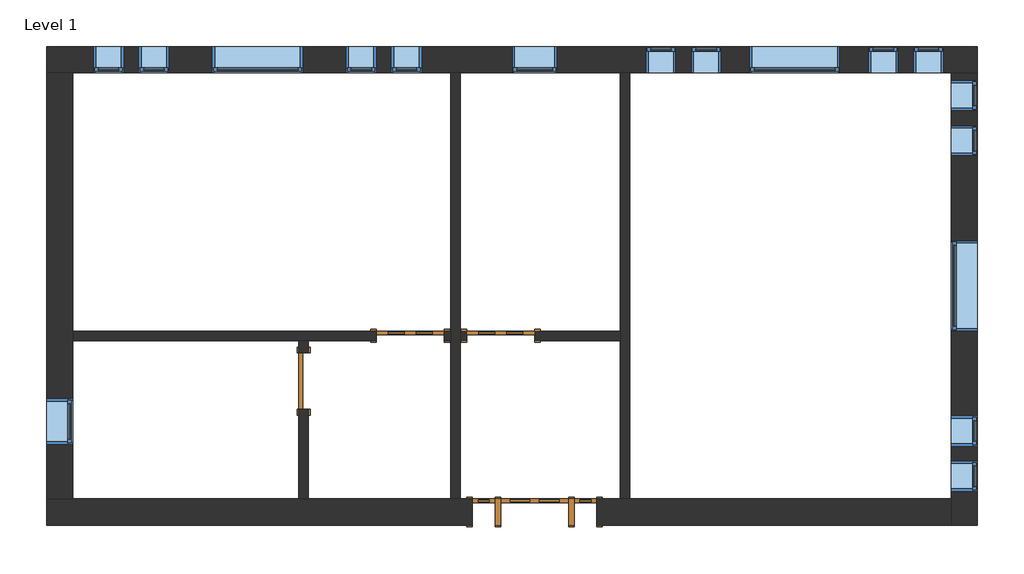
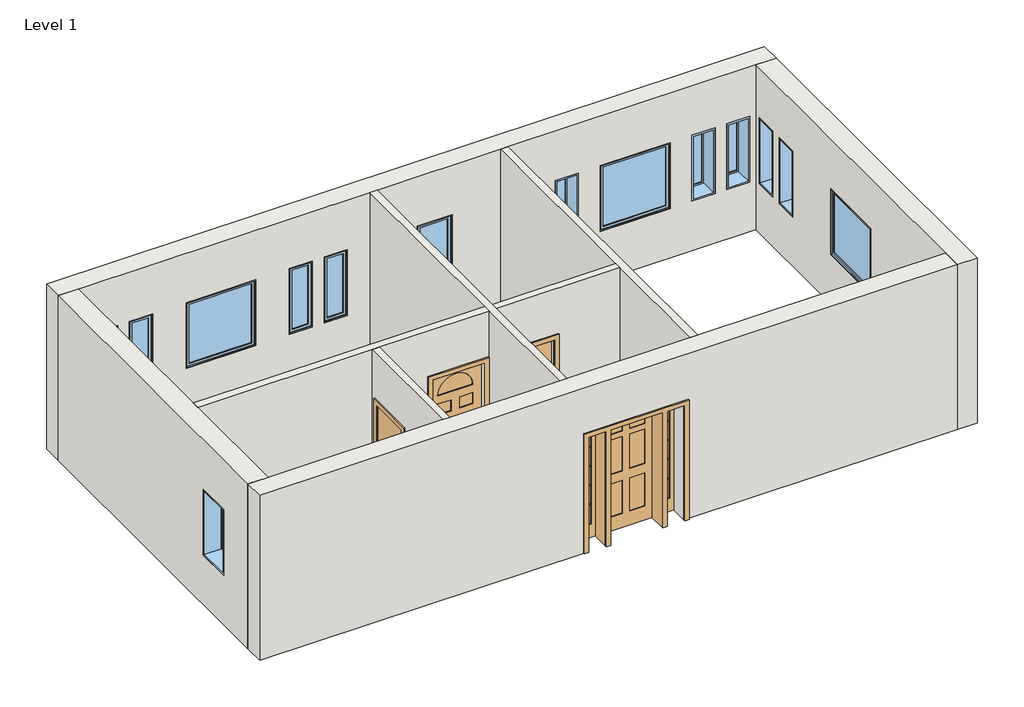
# One storey: 17 windows, 9 walls, 4 doors.
"""IFC4 building model written with IfcOpenShell, lengths in millimetres."""

from ifc_helpers import new_model, si_unit, frame, origin, place, context, project, spatial, polyline, outline, extrude, faceted_brep, transform, mapped, element, save
from components import door_829da954, door_2e3b4da2, door_4d6c7550, door_dba5aa2e, window_da97879f, window_d61ef850, window_60baf983, window_6eb97611

model = new_model("IFC4")

# Units and contexts
model_context = context("Model", 3, world=origin())
ifc_project = project(units=[si_unit("LENGTHUNIT", "METRE", prefix="MILLI")], contexts=[model_context])

# Site, building, storey
site = spatial("IfcSite", under=ifc_project)
building = spatial("IfcBuilding", under=site)
storey = spatial("IfcBuildingStorey", under=building, Name="Level 1", Elevation=0.0)

# Doors
placement = place(None, origin())
door_shape = door_829da954(model_context)
element("IfcDoor", 1, ObjectType="Single-Decorative 2 : 36\" x 84\"", at=placement, inside=storey, context=model_context, shape_type="MappedRepresentation", body=[
    mapped(door_shape, transform((-5449.8589563, 6723.5441867, 0.0), x_axis=(-1.0, 0.0, 0.0), y_axis=(0.0, -1.0, 0.0), z_axis=(0.0, 0.0, 1.0))),
])
door_2_shape = door_2e3b4da2(model_context)
element("IfcDoor", 2, ObjectType="Single-Decorative 2 : 36\" x 84\"", at=placement, inside=storey, context=model_context, shape_type="MappedRepresentation", body=[
    mapped(door_2_shape, transform((-6669.0589563, 6723.5441867, 0.0), x_axis=(1.0, 0.0, 0.0), y_axis=(0.0, 1.0, 0.0), z_axis=(0.0, 0.0, 1.0))),
])
door_3_shape = door_4d6c7550(model_context)
element("IfcDoor", 3, ObjectType="Single-Flush : 30\" x 84\"", at=placement, inside=storey, context=model_context, shape_type="MappedRepresentation", body=[
    mapped(door_3_shape, transform((-8105.7464563, 6113.9441867, 0.0), x_axis=(0.0, 1.0, 0.0), y_axis=(-1.0, 0.0, 0.0), z_axis=(0.0, 0.0, 1.0))),
])
door_4_shape = door_dba5aa2e(model_context)
element("IfcDoor", 4, ObjectType="Single-Raised Panel with Sidelights : 36\" x 84\"", at=placement, inside=storey, context=model_context, shape_type="MappedRepresentation", body=[
    mapped(door_4_shape, transform((-4992.6589563, 4350.2316867, 0.0), x_axis=(-1.0, 0.0, 0.0), y_axis=(0.0, -1.0, 0.0), z_axis=(0.0, 0.0, 1.0))),
])

# Walls
element("IfcWall", 5, ObjectType="Exterior - Brick on Mtl. Stud", at=placement, inside=storey, context=model_context, shape_type="Brep", body=[
    faceted_brep([(-11569.6714563, 10270.0191867, 0.0), (-11217.2464563, 10270.0191867, 0.0), (-6122.9589563, 10270.0191867, 0.0), (-5995.9589563, 10270.0191867, 0.0), (-3836.9589563, 10270.0191867, 0.0), (-3709.9589563, 10270.0191867, 0.0), (622.3285437, 10270.0191867, 0.0), (974.7535437, 10270.0191867, 0.0), (974.7535437, 10270.0191867, 3048.0), (622.3285437, 10270.0191867, 3048.0), (-3709.9589563, 10270.0191867, 3048.0), (-3836.9589563, 10270.0191867, 3048.0), (-5995.9589563, 10270.0191867, 3048.0), (-6122.9589563, 10270.0191867, 3048.0), (-11217.2464563, 10270.0191867, 3048.0), (-11569.6714563, 10270.0191867, 3048.0), (112.7410437, 10270.0191867, 2133.6), (519.1410437, 10270.0191867, 2133.6), (519.1410437, 10270.0191867, 914.4), (112.7410437, 10270.0191867, 914.4), (-496.8589563, 10270.0191867, 2133.6), (-90.4589563, 10270.0191867, 2133.6), (-90.4589563, 10270.0191867, 914.4), (-496.8589563, 10270.0191867, 914.4), (-3087.6589563, 10270.0191867, 2133.6), (-3087.6589563, 10270.0191867, 914.4), (-3494.0589563, 10270.0191867, 914.4), (-3494.0589563, 10270.0191867, 2133.6), (-2478.0589563, 10270.0191867, 2133.6), (-2478.0589563, 10270.0191867, 914.4), (-2884.4589563, 10270.0191867, 914.4), (-2884.4589563, 10270.0191867, 2133.6), (-7126.2589563, 10270.0191867, 2133.6), (-7126.2589563, 10270.0191867, 914.4), (-7532.6589563, 10270.0191867, 914.4), (-7532.6589563, 10270.0191867, 2133.6), (-6516.6589563, 10270.0191867, 2133.6), (-6516.6589563, 10270.0191867, 914.4), (-6923.0589563, 10270.0191867, 914.4), (-6923.0589563, 10270.0191867, 2133.6), (-10326.6589563, 10270.0191867, 2133.6), (-9920.2589563, 10270.0191867, 2133.6), (-9920.2589563, 10270.0191867, 914.4), (-10326.6589563, 10270.0191867, 914.4), (-10936.2589563, 10270.0191867, 2133.6), (-10529.8589563, 10270.0191867, 2133.6), (-10529.8589563, 10270.0191867, 914.4), (-10936.2589563, 10270.0191867, 914.4), (-2097.0589563, 10270.0191867, 2133.6), (-877.8589563, 10270.0191867, 2133.6), (-877.8589563, 10270.0191867, 914.4), (-2097.0589563, 10270.0191867, 914.4), (-9336.0589563, 10270.0191867, 2133.6), (-8116.8589563, 10270.0191867, 2133.6), (-8116.8589563, 10270.0191867, 914.4), (-9336.0589563, 10270.0191867, 914.4), (-5297.4589563, 10270.0191867, 2133.6), (-4687.8589563, 10270.0191867, 2133.6), (-4687.8589563, 10270.0191867, 914.4), (-5297.4589563, 10270.0191867, 914.4), (-11569.6714563, 10622.4441867, 0.0), (-11569.6714563, 10622.4441867, 3048.0), (974.7535437, 10622.4441867, 3048.0), (974.7535437, 10622.4441867, 0.0), (112.7410437, 10622.4441867, 2133.6), (112.7410437, 10622.4441867, 914.4), (519.1410437, 10622.4441867, 914.4), (519.1410437, 10622.4441867, 2133.6), (-496.8589563, 10622.4441867, 2133.6), (-496.8589563, 10622.4441867, 914.4), (-90.4589563, 10622.4441867, 914.4), (-90.4589563, 10622.4441867, 2133.6), (-3087.6589563, 10622.4441867, 2133.6), (-3494.0589563, 10622.4441867, 2133.6), (-3494.0589563, 10622.4441867, 914.4), (-3087.6589563, 10622.4441867, 914.4), (-2478.0589563, 10622.4441867, 2133.6), (-2884.4589563, 10622.4441867, 2133.6), (-2884.4589563, 10622.4441867, 914.4), (-2478.0589563, 10622.4441867, 914.4), (-7126.2589563, 10622.4441867, 2133.6), (-7532.6589563, 10622.4441867, 2133.6), (-7532.6589563, 10622.4441867, 914.4), (-7126.2589563, 10622.4441867, 914.4), (-6516.6589563, 10622.4441867, 2133.6), (-6923.0589563, 10622.4441867, 2133.6), (-6923.0589563, 10622.4441867, 914.4), (-6516.6589563, 10622.4441867, 914.4), (-10326.6589563, 10622.4441867, 2133.6), (-10326.6589563, 10622.4441867, 914.4), (-9920.2589563, 10622.4441867, 914.4), (-9920.2589563, 10622.4441867, 2133.6), (-10936.2589563, 10622.4441867, 2133.6), (-10936.2589563, 10622.4441867, 914.4), (-10529.8589563, 10622.4441867, 914.4), (-10529.8589563, 10622.4441867, 2133.6), (-2097.0589563, 10622.4441867, 2133.6), (-2097.0589563, 10622.4441867, 914.4), (-877.8589563, 10622.4441867, 914.4), (-877.8589563, 10622.4441867, 2133.6), (-9336.0589563, 10622.4441867, 2133.6), (-9336.0589563, 10622.4441867, 914.4), (-8116.8589563, 10622.4441867, 914.4), (-8116.8589563, 10622.4441867, 2133.6), (-5297.4589563, 10622.4441867, 2133.6), (-5297.4589563, 10622.4441867, 914.4), (-4687.8589563, 10622.4441867, 914.4), (-4687.8589563, 10622.4441867, 2133.6)], [[[0, 1, 2, 3, 4, 5, 6, 7, 8, 9, 10, 11, 12, 13, 14, 15], [16, 17, 18, 19], [20, 21, 22, 23], [24, 25, 26, 27], [28, 29, 30, 31], [32, 33, 34, 35], [36, 37, 38, 39], [40, 41, 42, 43], [44, 45, 46, 47], [48, 49, 50, 51], [52, 53, 54, 55], [56, 57, 58, 59]], [[60, 61, 62, 63], [64, 65, 66, 67], [68, 69, 70, 71], [72, 73, 74, 75], [76, 77, 78, 79], [80, 81, 82, 83], [84, 85, 86, 87], [88, 89, 90, 91], [92, 93, 94, 95], [96, 97, 98, 99], [100, 101, 102, 103], [104, 105, 106, 107]], [[7, 6, 5, 4, 3, 2, 1, 0, 60, 63]], [[15, 14, 13, 12, 11, 10, 9, 8, 62, 61]], [[8, 7, 63, 62]], [[0, 15, 61, 60]], [[65, 64, 16, 19]], [[66, 65, 19, 18]], [[67, 66, 18, 17]], [[64, 67, 17, 16]], [[69, 68, 20, 23]], [[70, 69, 23, 22]], [[71, 70, 22, 21]], [[68, 71, 21, 20]], [[25, 24, 72, 75]], [[26, 25, 75, 74]], [[27, 26, 74, 73]], [[24, 27, 73, 72]], [[29, 28, 76, 79]], [[30, 29, 79, 78]], [[31, 30, 78, 77]], [[28, 31, 77, 76]], [[33, 32, 80, 83]], [[34, 33, 83, 82]], [[35, 34, 82, 81]], [[32, 35, 81, 80]], [[37, 36, 84, 87]], [[38, 37, 87, 86]], [[39, 38, 86, 85]], [[36, 39, 85, 84]], [[89, 88, 40, 43]], [[90, 89, 43, 42]], [[91, 90, 42, 41]], [[88, 91, 41, 40]], [[93, 92, 44, 47]], [[94, 93, 47, 46]], [[95, 94, 46, 45]], [[92, 95, 45, 44]], [[97, 96, 48, 51]], [[98, 97, 51, 50]], [[99, 98, 50, 49]], [[96, 99, 49, 48]], [[101, 100, 52, 55]], [[102, 101, 55, 54]], [[103, 102, 54, 53]], [[100, 103, 53, 52]], [[105, 104, 56, 59]], [[106, 105, 59, 58]], [[107, 106, 58, 57]], [[104, 107, 57, 56]]]),
])
element("IfcWall", 6, ObjectType="Exterior - Brick on Mtl. Stud", at=placement, inside=storey, context=model_context, shape_type="Brep", body=[
    faceted_brep([(622.3285437, 10270.0191867, 0.0), (622.3285437, 4526.4441867, 0.0), (622.3285437, 4174.0191867, 0.0), (622.3285437, 4174.0191867, 3048.0), (622.3285437, 4526.4441867, 3048.0), (622.3285437, 10270.0191867, 3048.0), (622.3285437, 5036.0316867, 2133.6), (622.3285437, 4629.6316867, 2133.6), (622.3285437, 4629.6316867, 914.4), (622.3285437, 5036.0316867, 914.4), (622.3285437, 5645.6316867, 2133.6), (622.3285437, 5239.2316867, 2133.6), (622.3285437, 5239.2316867, 914.4), (622.3285437, 5645.6316867, 914.4), (622.3285437, 9760.4316867, 2133.6), (622.3285437, 9760.4316867, 914.4), (622.3285437, 10166.8316867, 914.4), (622.3285437, 10166.8316867, 2133.6), (622.3285437, 9150.8316867, 2133.6), (622.3285437, 9150.8316867, 914.4), (622.3285437, 9557.2316867, 914.4), (622.3285437, 9557.2316867, 2133.6), (622.3285437, 8007.8316867, 2133.6), (622.3285437, 6788.6316867, 2133.6), (622.3285437, 6788.6316867, 914.4), (622.3285437, 8007.8316867, 914.4), (974.7535437, 10270.0191867, 0.0), (974.7535437, 10270.0191867, 3048.0), (974.7535437, 4174.0191867, 3048.0), (974.7535437, 4174.0191867, 0.0), (974.7535437, 5036.0316867, 2133.6), (974.7535437, 5036.0316867, 914.4), (974.7535437, 4629.6316867, 914.4), (974.7535437, 4629.6316867, 2133.6), (974.7535437, 5645.6316867, 2133.6), (974.7535437, 5645.6316867, 914.4), (974.7535437, 5239.2316867, 914.4), (974.7535437, 5239.2316867, 2133.6), (974.7535437, 9760.4316867, 2133.6), (974.7535437, 10166.8316867, 2133.6), (974.7535437, 10166.8316867, 914.4), (974.7535437, 9760.4316867, 914.4), (974.7535437, 9150.8316867, 2133.6), (974.7535437, 9557.2316867, 2133.6), (974.7535437, 9557.2316867, 914.4), (974.7535437, 9150.8316867, 914.4), (974.7535437, 8007.8316867, 2133.6), (974.7535437, 8007.8316867, 914.4), (974.7535437, 6788.6316867, 914.4), (974.7535437, 6788.6316867, 2133.6)], [[[0, 1, 2, 3, 4, 5], [6, 7, 8, 9], [10, 11, 12, 13], [14, 15, 16, 17], [18, 19, 20, 21], [22, 23, 24, 25]], [[26, 27, 28, 29], [30, 31, 32, 33], [34, 35, 36, 37], [38, 39, 40, 41], [42, 43, 44, 45], [46, 47, 48, 49]], [[2, 1, 0, 26, 29]], [[5, 4, 3, 28, 27]], [[3, 2, 29, 28]], [[0, 5, 27, 26]], [[31, 30, 6, 9]], [[32, 31, 9, 8]], [[33, 32, 8, 7]], [[30, 33, 7, 6]], [[35, 34, 10, 13]], [[36, 35, 13, 12]], [[37, 36, 12, 11]], [[34, 37, 11, 10]], [[15, 14, 38, 41]], [[16, 15, 41, 40]], [[17, 16, 40, 39]], [[14, 17, 39, 38]], [[19, 18, 42, 45]], [[20, 19, 45, 44]], [[21, 20, 44, 43]], [[18, 21, 43, 42]], [[47, 46, 22, 25]], [[48, 47, 25, 24]], [[49, 48, 24, 23]], [[46, 49, 23, 22]]]),
])
element("IfcWall", 7, ObjectType="Exterior - Brick on Mtl. Stud", at=placement, inside=storey, context=model_context, shape_type="Brep", body=[
    faceted_brep([(-5830.8589563, 4526.4441867, 2133.6), (-5830.8589563, 4526.4441867, 0.0), (-5995.9589563, 4526.4441867, 0.0), (-6122.9589563, 4526.4441867, 0.0), (-8042.2464563, 4526.4441867, 0.0), (-8169.2464563, 4526.4441867, 0.0), (-11217.2464563, 4526.4441867, 0.0), (-11569.6714563, 4526.4441867, 0.0), (-11569.6714563, 4526.4441867, 3048.0), (-11217.2464563, 4526.4441867, 3048.0), (-8169.2464563, 4526.4441867, 3048.0), (-8042.2464563, 4526.4441867, 3048.0), (-6122.9589563, 4526.4441867, 3048.0), (-5995.9589563, 4526.4441867, 3048.0), (-3836.9589563, 4526.4441867, 3048.0), (-3709.9589563, 4526.4441867, 3048.0), (622.3285437, 4526.4441867, 3048.0), (622.3285437, 4526.4441867, 0.0), (-3709.9589563, 4526.4441867, 0.0), (-3836.9589563, 4526.4441867, 0.0), (-4154.4589563, 4526.4441867, 0.0), (-4154.4589563, 4526.4441867, 2133.6), (-11569.6714563, 4174.0191867, 0.0), (-5830.8589563, 4174.0191867, 0.0), (-5830.8589563, 4174.0191867, 2133.6), (-4154.4589563, 4174.0191867, 2133.6), (-4154.4589563, 4174.0191867, 0.0), (622.3285437, 4174.0191867, 0.0), (622.3285437, 4174.0191867, 3048.0), (-11569.6714563, 4174.0191867, 3048.0)], [[[0, 1, 2, 3, 4, 5, 6, 7, 8, 9, 10, 11, 12, 13, 14, 15, 16, 17, 18, 19, 20, 21]], [[22, 23, 24, 25, 26, 27, 28, 29]], [[7, 6, 5, 4, 3, 2, 1, 23, 22]], [[20, 19, 18, 17, 27, 26]], [[16, 15, 14, 13, 12, 11, 10, 9, 8, 29, 28]], [[8, 7, 22, 29]], [[17, 16, 28, 27]], [[24, 23, 1, 0]], [[25, 24, 0, 21]], [[26, 25, 21, 20]]]),
])
element("IfcWall", 8, ObjectType="Exterior - Brick on Mtl. Stud", at=placement, inside=storey, context=model_context, shape_type="Brep", body=[
    faceted_brep([(-11217.2464563, 10270.0191867, 0.0), (-11217.2464563, 6787.0441867, 0.0), (-11217.2464563, 6660.0441867, 0.0), (-11217.2464563, 4526.4441867, 0.0), (-11569.6714563, 4526.4441867, 0.0), (-11569.6714563, 10270.0191867, 0.0), (-11217.2464563, 4526.4441867, 3048.0), (-11217.2464563, 6660.0441867, 3048.0), (-11217.2464563, 6787.0441867, 3048.0), (-11217.2464563, 10270.0191867, 3048.0), (-11569.6714563, 10270.0191867, 3048.0), (-11569.6714563, 4526.4441867, 3048.0), (-11217.2464563, 5264.6316867, 2133.6), (-11217.2464563, 5874.2316867, 2133.6), (-11217.2464563, 5874.2316867, 914.4), (-11217.2464563, 5264.6316867, 914.4), (-11569.6714563, 5264.6316867, 2133.6), (-11569.6714563, 5264.6316867, 914.4), (-11569.6714563, 5874.2316867, 914.4), (-11569.6714563, 5874.2316867, 2133.6)], [[[0, 1, 2, 3, 4, 5]], [[6, 7, 8, 9, 10, 11]], [[3, 2, 1, 0, 9, 8, 7, 6], [12, 13, 14, 15]], [[4, 11, 10, 5], [16, 17, 18, 19]], [[3, 6, 11, 4]], [[9, 0, 5, 10]], [[17, 16, 12, 15]], [[18, 17, 15, 14]], [[19, 18, 14, 13]], [[16, 19, 13, 12]]]),
])
element("IfcWall", 9, ObjectType="Interior - 5\" Partition (2-hr)", at=placement, inside=storey, context=model_context, shape_type="Brep", body=[
    faceted_brep([(-3836.9589563, 10270.0191867, 0.0), (-3836.9589563, 6787.0441867, 0.0), (-3836.9589563, 6660.0441867, 0.0), (-3836.9589563, 4526.4441867, 0.0), (-3836.9589563, 4526.4441867, 3048.0), (-3836.9589563, 6660.0441867, 3048.0), (-3836.9589563, 6787.0441867, 3048.0), (-3836.9589563, 10270.0191867, 3048.0), (-3709.9589563, 10270.0191867, 0.0), (-3709.9589563, 10270.0191867, 3048.0), (-3709.9589563, 4526.4441867, 3048.0), (-3709.9589563, 4526.4441867, 0.0)], [[[0, 1, 2, 3, 4, 5, 6, 7]], [[8, 9, 10, 11]], [[3, 2, 1, 0, 8, 11]], [[7, 6, 5, 4, 10, 9]], [[0, 7, 9, 8]], [[4, 3, 11, 10]]]),
])
element("IfcWall", 10, ObjectType="Interior - 5\" Partition (2-hr)", at=placement, inside=storey, context=model_context, shape_type="Brep", body=[
    faceted_brep([(-6122.9589563, 10270.0191867, 0.0), (-6122.9589563, 6787.0441867, 0.0), (-6122.9589563, 6660.0441867, 0.0), (-6122.9589563, 4526.4441867, 0.0), (-6122.9589563, 4526.4441867, 3048.0), (-6122.9589563, 6660.0441867, 3048.0), (-6122.9589563, 6787.0441867, 3048.0), (-6122.9589563, 10270.0191867, 3048.0), (-5995.9589563, 10270.0191867, 0.0), (-5995.9589563, 10270.0191867, 3048.0), (-5995.9589563, 6787.0441867, 3048.0), (-5995.9589563, 6660.0441867, 3048.0), (-5995.9589563, 4526.4441867, 3048.0), (-5995.9589563, 4526.4441867, 0.0), (-5995.9589563, 6660.0441867, 0.0), (-5995.9589563, 6787.0441867, 0.0)], [[[0, 1, 2, 3, 4, 5, 6, 7]], [[8, 9, 10, 11, 12, 13, 14, 15]], [[3, 2, 1, 0, 8, 15, 14, 13]], [[7, 6, 5, 4, 12, 11, 10, 9]], [[0, 7, 9, 8]], [[4, 3, 13, 12]]]),
])
element("IfcWall", 11, ObjectType="Interior - 5\" Partition (2-hr)", at=placement, inside=storey, context=model_context, shape_type="Brep", body=[
    faceted_brep([(-6211.8589563, 6660.0441867, 2133.6), (-6211.8589563, 6660.0441867, 0.0), (-6122.9589563, 6660.0441867, 0.0), (-6122.9589563, 6660.0441867, 3048.0), (-8042.2464563, 6660.0441867, 3048.0), (-8169.2464563, 6660.0441867, 3048.0), (-11217.2464563, 6660.0441867, 3048.0), (-11217.2464563, 6660.0441867, 0.0), (-8169.2464563, 6660.0441867, 0.0), (-8042.2464563, 6660.0441867, 0.0), (-7126.2589563, 6660.0441867, 0.0), (-7126.2589563, 6660.0441867, 2133.6), (-6122.9589563, 6787.0441867, 0.0), (-6211.8589563, 6787.0441867, 0.0), (-6211.8589563, 6787.0441867, 2133.6), (-7126.2589563, 6787.0441867, 2133.6), (-7126.2589563, 6787.0441867, 0.0), (-11217.2464563, 6787.0441867, 0.0), (-11217.2464563, 6787.0441867, 3048.0), (-6122.9589563, 6787.0441867, 3048.0)], [[[0, 1, 2, 3, 4, 5, 6, 7, 8, 9, 10, 11]], [[12, 13, 14, 15, 16, 17, 18, 19]], [[2, 1, 13, 12]], [[10, 9, 8, 7, 17, 16]], [[6, 5, 4, 3, 19, 18]], [[7, 6, 18, 17]], [[3, 2, 12, 19]], [[14, 13, 1, 0]], [[15, 14, 0, 11]], [[16, 15, 11, 10]]]),
])
element("IfcWall", 12, ObjectType="Interior - 5\" Partition (2-hr)", at=placement, inside=storey, context=model_context, shape_type="SweptSolid", body=[
    extrude(outline(polyline([(6660.0441867, 0.0), (6494.9441867, 0.0), (6494.9441867, 2133.6), (5732.9441867, 2133.6), (5732.9441867, 0.0), (4526.4441867, 0.0), (4526.4441867, 3048.0), (6660.0441867, 3048.0), (6660.0441867, 0.0)])), frame((-8169.2464563, 0.0, 0.0), z_axis=(1.0, 0.0, 0.0), x_axis=(0.0, 1.0, 0.0)), (0.0, 0.0, 1.0), 127.0),
])
element("IfcWall", 13, ObjectType="Interior - 5\" Partition (2-hr)", at=placement, inside=storey, context=model_context, shape_type="SweptSolid", body=[
    extrude(outline(polyline([(0.0, -5995.9589563), (0.0, -5907.0589563), (2133.6, -5907.0589563), (2133.6, -4992.6589563), (0.0, -4992.6589563), (0.0, -3836.9589563), (3048.0, -3836.9589563), (3048.0, -5995.9589563), (0.0, -5995.9589563)])), frame((0.0, 6660.0441867, 0.0), z_axis=(0.0, 1.0, 0.0), x_axis=(0.0, 0.0, 1.0)), (0.0, 0.0, 1.0), 127.0),
])

# Windows
window_shape = window_da97879f(model_context)
element("IfcWindow", 14, ObjectType="Fixed : 16\" x 48\"", at=placement, inside=storey, context=model_context, shape_type="MappedRepresentation", body=[
    mapped(window_shape, transform((-10771.1589563, 10446.2316867, 0.0), x_axis=(-1.0, 0.0, 0.0), y_axis=(0.0, -1.0, 0.0), z_axis=(0.0, 0.0, 1.0))),
])
element("IfcWindow", 15, ObjectType="Fixed : 16\" x 48\"", at=placement, inside=storey, context=model_context, shape_type="MappedRepresentation", body=[
    mapped(window_shape, transform((-10161.5589563, 10446.2316867, 0.0), x_axis=(-1.0, 0.0, 0.0), y_axis=(0.0, -1.0, 0.0), z_axis=(0.0, 0.0, 1.0))),
])
element("IfcWindow", 16, ObjectType="Fixed : 16\" x 48\"", at=placement, inside=storey, context=model_context, shape_type="MappedRepresentation", body=[
    mapped(window_shape, transform((-2643.1589563, 10446.2316867, 0.0), x_axis=(1.0, 0.0, 0.0), y_axis=(0.0, 1.0, 0.0), z_axis=(0.0, 0.0, 1.0))),
])
element("IfcWindow", 17, ObjectType="Fixed : 16\" x 48\"", at=placement, inside=storey, context=model_context, shape_type="MappedRepresentation", body=[
    mapped(window_shape, transform((-3252.7589563, 10446.2316867, 0.0), x_axis=(1.0, 0.0, 0.0), y_axis=(0.0, 1.0, 0.0), z_axis=(0.0, 0.0, 1.0))),
])
element("IfcWindow", 18, ObjectType="Fixed : 16\" x 48\"", at=placement, inside=storey, context=model_context, shape_type="MappedRepresentation", body=[
    mapped(window_shape, transform((798.5410437, 9315.9316867, 0.0), x_axis=(0.0, -1.0, 0.0), y_axis=(1.0, 0.0, 0.0), z_axis=(0.0, 0.0, 1.0))),
])
element("IfcWindow", 19, ObjectType="Fixed : 16\" x 48\"", at=placement, inside=storey, context=model_context, shape_type="MappedRepresentation", body=[
    mapped(window_shape, transform((798.5410437, 9925.5316867, 0.0), x_axis=(0.0, -1.0, 0.0), y_axis=(1.0, 0.0, 0.0), z_axis=(0.0, 0.0, 1.0))),
])
window_2_shape = window_d61ef850(model_context)
element("IfcWindow", 20, ObjectType="Fixed : 16\" x 48\"", at=placement, inside=storey, context=model_context, shape_type="MappedRepresentation", body=[
    mapped(window_2_shape, transform((-6681.7589563, 10446.2316867, 0.0), x_axis=(1.0, 0.0, 0.0), y_axis=(0.0, 1.0, 0.0), z_axis=(0.0, 0.0, 1.0))),
])
element("IfcWindow", 21, ObjectType="Fixed : 16\" x 48\"", at=placement, inside=storey, context=model_context, shape_type="MappedRepresentation", body=[
    mapped(window_2_shape, transform((-7291.3589563, 10446.2316867, 0.0), x_axis=(1.0, 0.0, 0.0), y_axis=(0.0, 1.0, 0.0), z_axis=(0.0, 0.0, 1.0))),
])
element("IfcWindow", 22, ObjectType="Fixed : 16\" x 48\"", at=placement, inside=storey, context=model_context, shape_type="MappedRepresentation", body=[
    mapped(window_2_shape, transform((-331.7589563, 10446.2316867, 0.0), x_axis=(-1.0, 0.0, 0.0), y_axis=(0.0, -1.0, 0.0), z_axis=(0.0, 0.0, 1.0))),
])
element("IfcWindow", 23, ObjectType="Fixed : 16\" x 48\"", at=placement, inside=storey, context=model_context, shape_type="MappedRepresentation", body=[
    mapped(window_2_shape, transform((277.8410437, 10446.2316867, 0.0), x_axis=(-1.0, 0.0, 0.0), y_axis=(0.0, -1.0, 0.0), z_axis=(0.0, 0.0, 1.0))),
])
element("IfcWindow", 24, ObjectType="Fixed : 16\" x 48\"", at=placement, inside=storey, context=model_context, shape_type="MappedRepresentation", body=[
    mapped(window_2_shape, transform((798.5410437, 5480.5316867, 0.0), x_axis=(0.0, 1.0, 0.0), y_axis=(-1.0, 0.0, 0.0), z_axis=(0.0, 0.0, 1.0))),
])
element("IfcWindow", 25, ObjectType="Fixed : 16\" x 48\"", at=placement, inside=storey, context=model_context, shape_type="MappedRepresentation", body=[
    mapped(window_2_shape, transform((798.5410437, 4870.9316867, 0.0), x_axis=(0.0, 1.0, 0.0), y_axis=(-1.0, 0.0, 0.0), z_axis=(0.0, 0.0, 1.0))),
])
window_3_shape = window_60baf983(model_context)
element("IfcWindow", 26, ObjectType="Fixed : 24\" x 48\"", at=placement, inside=storey, context=model_context, shape_type="MappedRepresentation", body=[
    mapped(window_3_shape, transform((-5030.7589563, 10446.2316867, 0.0), x_axis=(-1.0, 0.0, 0.0), y_axis=(0.0, -1.0, 0.0), z_axis=(0.0, 0.0, 1.0))),
])
element("IfcWindow", 27, ObjectType="Fixed : 24\" x 48\"", at=placement, inside=storey, context=model_context, shape_type="MappedRepresentation", body=[
    mapped(window_3_shape, transform((-11393.4589563, 5531.3316867, 0.0), x_axis=(0.0, -1.0, 0.0), y_axis=(1.0, 0.0, 0.0), z_axis=(0.0, 0.0, 1.0))),
])
window_4_shape = window_6eb97611(model_context)
element("IfcWindow", 28, ObjectType="Fixed : 48\" x 48\"", at=placement, inside=storey, context=model_context, shape_type="MappedRepresentation", body=[
    mapped(window_4_shape, transform((-8764.5589563, 10446.2316867, 0.0), x_axis=(-1.0, 0.0, 0.0), y_axis=(0.0, -1.0, 0.0), z_axis=(0.0, 0.0, 1.0))),
])
element("IfcWindow", 29, ObjectType="Fixed : 48\" x 48\"", at=placement, inside=storey, context=model_context, shape_type="MappedRepresentation", body=[
    mapped(window_4_shape, transform((-1525.5589563, 10446.2316867, 0.0), x_axis=(-1.0, 0.0, 0.0), y_axis=(0.0, -1.0, 0.0), z_axis=(0.0, 0.0, 1.0))),
])
element("IfcWindow", 30, ObjectType="Fixed : 48\" x 48\"", at=placement, inside=storey, context=model_context, shape_type="MappedRepresentation", body=[
    mapped(window_4_shape, transform((798.5410437, 7436.3316867, 0.0), x_axis=(0.0, 1.0, 0.0), y_axis=(-1.0, 0.0, 0.0), z_axis=(0.0, 0.0, 1.0))),
])

save(model, "model.ifc")
